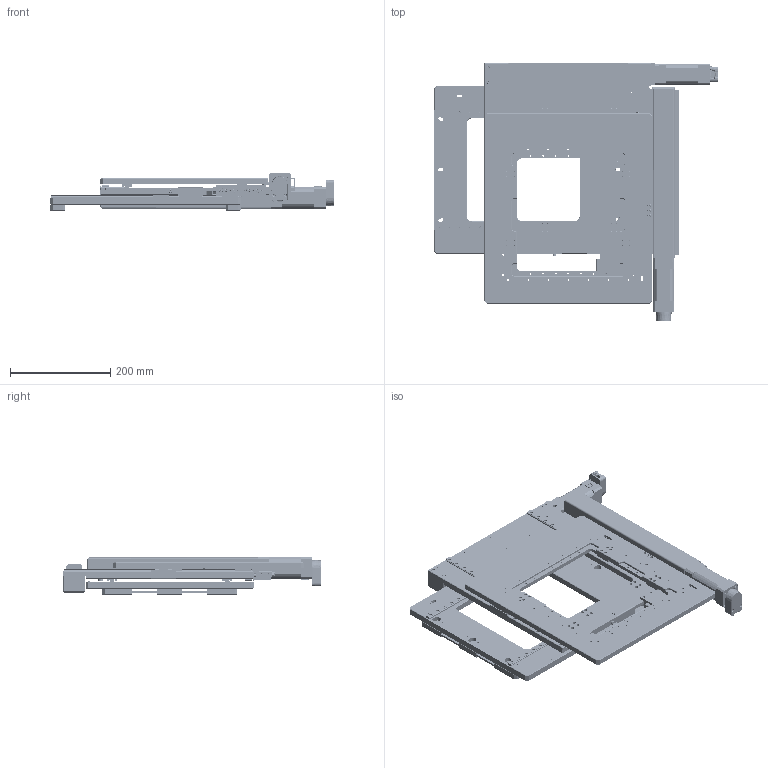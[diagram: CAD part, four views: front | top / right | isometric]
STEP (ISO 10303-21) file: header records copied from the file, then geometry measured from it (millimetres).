
FILE_DESCRIPTION(/* description */ (''),/* implementation_level */ '2;1');
FILE_NAME(/* name */ 'U:\KONSTRUKTORIAI\DOKUMENTACIJA\8\8MTF-200-B43-MEn4-LEn1\STEP\8MTF-200-B43-MEn4-LEn1 X+100 Y-100.stp',/* time_stamp */ '2021-05-06T15:59:30+03:00',/* author */ ('dsgn32'),/* organization */ (''),/* preprocessor_version */ 'ST-DEVELOPER v15.2',/* originating_system */ 'Autodesk Inventor 2014',/* authorisation */ '');
FILE_SCHEMA (('AUTOMOTIVE_DESIGN { 1 0 10303 214 3 1 1 }'));
Products named in the file (1): 8MTF-200-B43-MEn4-LEn1 X+100 Y-100
Bounding box: 565.89 x 513.89 x 74 mm (x, y, z)
Volume: 4780097.7 mm3; surface area: 912230.4 mm2
Topology: 6 solids, 57 shells, 7133 faces, 17729 edges, 11344 vertices
Faces by surface type: plane 3982, cylinder 2051, bspline 546, cone 388, torus 130, sphere 36
Full cylindrical faces by diameter (mm): 0.61 x52, 0.813 x10, 1.143 x52, 1.321 x52, 1.567 x34, 1.981 x16, 2.013 x9, 2.459 x152, 2.5 x32, 2.693 x8, 2.9 x4, 3 x10, 3.048 x4, 3.1 x2, 3.175 x4, 3.242 x67, 3.302 x12, 3.4 x57, 3.5 x81, 4 x26, 4.2 x3, 4.5 x22, 4.917 x2, 5 x6, 5.5 x2, 6 x122, 6.35 x2, 6.5 x8, 7 x25, 8 x22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
Entity records: 231912 total; most frequent: CARTESIAN_POINT 63506, DIRECTION 32242, ORIENTED_EDGE 32092, EDGE_CURVE 16025, AXIS2_PLACEMENT_3D 11198, VERTEX_POINT 10974, LINE 9846, VECTOR 9846
